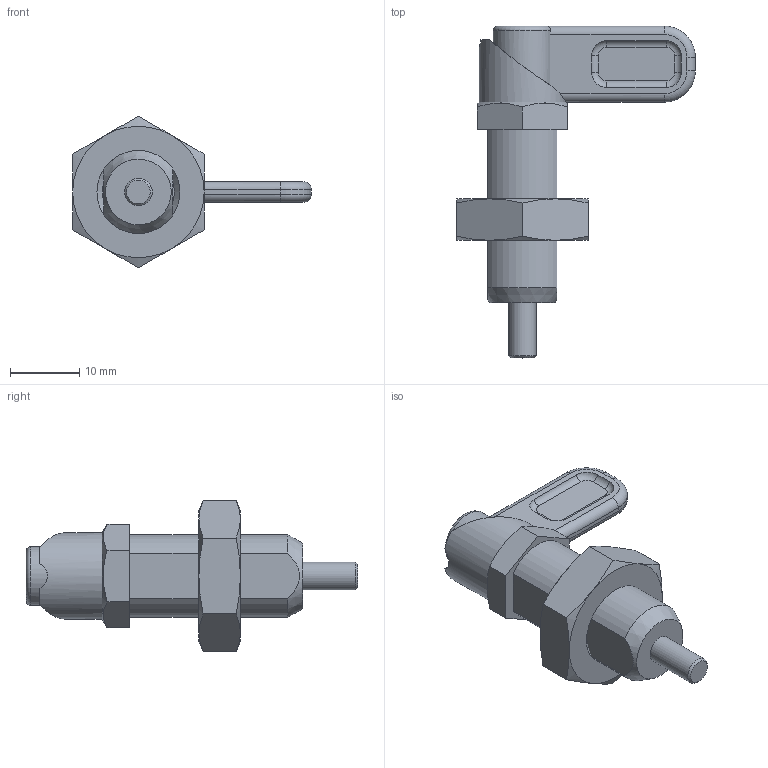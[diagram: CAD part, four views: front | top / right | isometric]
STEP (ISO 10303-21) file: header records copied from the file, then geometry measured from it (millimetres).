
FILE_DESCRIPTION( ( 'STEP AP203' ), '1' );
FILE_NAME( 'C:/Temp/Ganter_Step_05_03_2020/data/3_1/gn_612.8/gn612_8_ak/Indexing plunger GN 612.8-4-M12x1,5-AK (deactivated).stp', '2020-03-12T09:12:29', ( 'License CC BY-ND 4.0' ), ( 'CADENAS' ), ' ', 'PARTsolutions', ' ' );
FILE_SCHEMA( ( 'CONFIG_CONTROL_DESIGN' ) );
Length unit declared in the file: millimetre
Products named in the file (4): Indexing plunger GN 612.8-4-M12x1,5-AK (deactivated); _Indexing plunger GN 612.8-4-M12x1,5-AK (1)_2; _Indexing plunger GN 612.8-4-M12x1,5-AK (1)_1; _Indexing plunger GN 612.8-4-M12x1,5-AK (1)_3
Assembly tree (3 placements, depth 2):
  Indexing plunger GN 612.8-4-M12x1,5-AK (deactivated)
    _Indexing plunger GN 612.8-4-M12x1,5-AK (1)_2
    _Indexing plunger GN 612.8-4-M12x1,5-AK (1)_1
    _Indexing plunger GN 612.8-4-M12x1,5-AK (1)_3
Bounding box: 34.5 x 48 x 21.94 mm (x, y, z)
Volume: 5941.9 mm3; surface area: 4504.2 mm2
Topology: 3 solids, 3 shells, 97 faces, 222 edges, 139 vertices
Faces by surface type: cylinder 34, plane 33, cone 17, torus 13
Full cylindrical faces by diameter (mm): 4 x4, 5 x2, 9 x1, 10.376 x1, 12.5 x1
Entity records: 3159 total; most frequent: CARTESIAN_POINT 926, DIRECTION 444, ORIENTED_EDGE 412, EDGE_CURVE 206, AXIS2_PLACEMENT_3D 190, VERTEX_POINT 136, EDGE_LOOP 122, FACE_OUTER_BOUND 105
